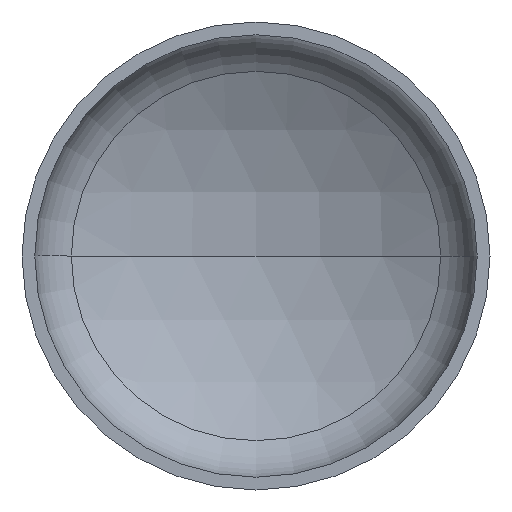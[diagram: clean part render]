
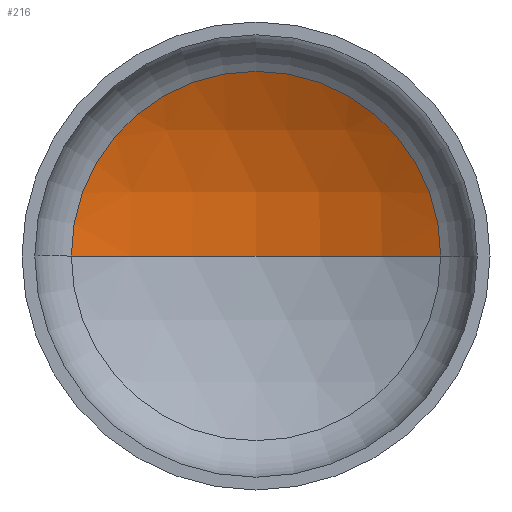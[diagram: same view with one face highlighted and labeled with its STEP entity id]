
A CAD part, front view. The second image highlights one B-rep face of the part: STEP entity #216.
In plain terms, the highlighted spherical face has radius 3040 mm.
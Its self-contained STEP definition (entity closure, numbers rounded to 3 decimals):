
#2 = AXIS2_PLACEMENT_3D ( 'NONE', #41, #287, #143 ) ;
#8 = VERTEX_POINT ( 'NONE', #181 ) ;
#20 = AXIS2_PLACEMENT_3D ( 'NONE', #260, #279, #190 ) ;
#30 = ORIENTED_EDGE ( 'NONE', *, *, #100, .T. ) ;
#37 = AXIS2_PLACEMENT_3D ( 'NONE', #47, #43, #111 ) ;
#41 = CARTESIAN_POINT ( 'NONE',  ( 0., -2060.534, 0. ) ) ;
#42 = AXIS2_PLACEMENT_3D ( 'NONE', #278, #123, #129 ) ;
#43 = DIRECTION ( 'NONE',  ( 0., 0., -1. ) ) ;
#47 = CARTESIAN_POINT ( 'NONE',  ( 0., -2060.534, 0. ) ) ;
#89 = EDGE_CURVE ( 'NONE', #8, #122, #158, .T. ) ;
#94 = ORIENTED_EDGE ( 'NONE', *, *, #89, .T. ) ;
#97 = ORIENTED_EDGE ( 'NONE', *, *, #341, .F. ) ;
#100 = EDGE_CURVE ( 'NONE', #301, #8, #275, .T. ) ;
#108 = EDGE_LOOP ( 'NONE', ( #97, #30, #94 ) ) ;
#111 = DIRECTION ( 'NONE',  ( -1., 0., 0. ) ) ;
#122 = VERTEX_POINT ( 'NONE', #135 ) ;
#123 = DIRECTION ( 'NONE',  ( 0., -1., 0. ) ) ;
#129 = DIRECTION ( 'NONE',  ( 1., 0., 0. ) ) ;
#135 = CARTESIAN_POINT ( 'NONE',  ( -1499.568, 583.875, 0. ) ) ;
#143 = DIRECTION ( 'NONE',  ( 1., 0., 0. ) ) ;
#158 = CIRCLE ( 'NONE', #42, 1499.568 ) ;
#163 = CARTESIAN_POINT ( 'NONE',  ( 0., 979.466, 0. ) ) ;
#181 = CARTESIAN_POINT ( 'NONE',  ( 1499.568, 583.875, 0. ) ) ;
#190 = DIRECTION ( 'NONE',  ( -1., 0., 0. ) ) ;
#213 = SPHERICAL_SURFACE ( 'NONE', #20, 3040. ) ;
#216 = ADVANCED_FACE ( 'NONE', ( #264 ), #213, .F. ) ;
#260 = CARTESIAN_POINT ( 'NONE',  ( 0., -2060.534, 0. ) ) ;
#264 = FACE_OUTER_BOUND ( 'NONE', #108, .T. ) ;
#275 = CIRCLE ( 'NONE', #37, 3040. ) ;
#278 = CARTESIAN_POINT ( 'NONE',  ( 0., 583.875, 0. ) ) ;
#279 = DIRECTION ( 'NONE',  ( 0., 0., -1. ) ) ;
#287 = DIRECTION ( 'NONE',  ( 0., 0., 1. ) ) ;
#301 = VERTEX_POINT ( 'NONE', #163 ) ;
#341 = EDGE_CURVE ( 'NONE', #301, #122, #364, .T. ) ;
#364 = CIRCLE ( 'NONE', #2, 3040. ) ;
